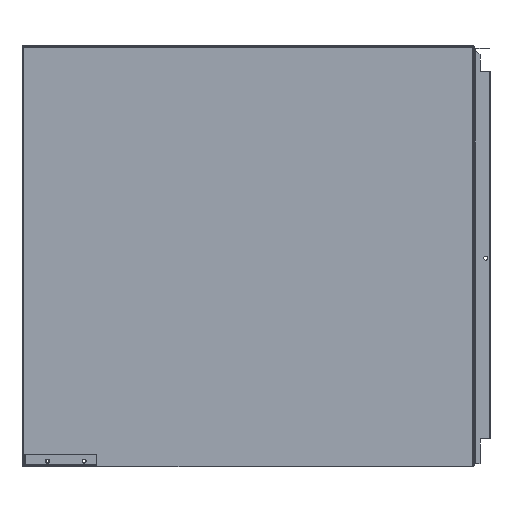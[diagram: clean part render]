
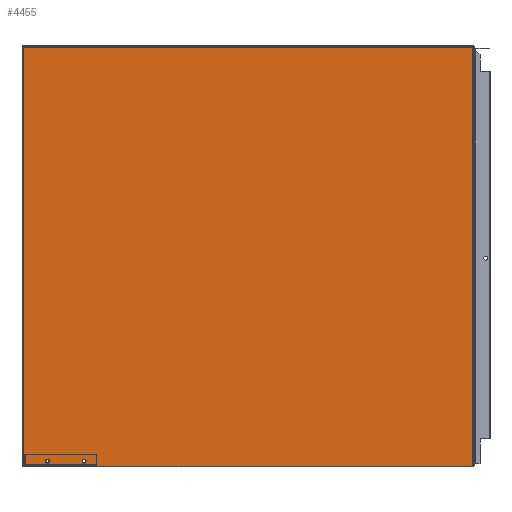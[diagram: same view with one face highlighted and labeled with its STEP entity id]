
A CAD part, left-side view. The second image highlights one B-rep face of the part: STEP entity #4455.
In plain terms, the highlighted planar face has unit normal (-1, 0, 0) as drawn and (0, 1, 0) by its records, which use the part's own axes.
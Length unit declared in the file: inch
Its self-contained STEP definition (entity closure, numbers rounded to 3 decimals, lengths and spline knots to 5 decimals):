
#46 = DIRECTION ( 'NONE',  ( -1., 0., 0. ) ) ;
#75 = LINE ( 'NONE', #1099, #2148 ) ;
#151 = CARTESIAN_POINT ( 'NONE',  ( -6.49853, 3.07772, 0.085 ) ) ;
#197 = VERTEX_POINT ( 'NONE', #4013 ) ;
#349 = VECTOR ( 'NONE', #3224, 39.37008 ) ;
#435 = CIRCLE ( 'NONE', #2537, 0.09375 ) ;
#460 = VERTEX_POINT ( 'NONE', #3942 ) ;
#487 = DIRECTION ( 'NONE',  ( -1., 0., 0. ) ) ;
#519 = DIRECTION ( 'NONE',  ( 0., 0., 1. ) ) ;
#568 = ORIENTED_EDGE ( 'NONE', *, *, #4282, .T. ) ;
#582 = DIRECTION ( 'NONE',  ( -1., 0., 0. ) ) ;
#586 = DIRECTION ( 'NONE',  ( 0., -1., 0. ) ) ;
#592 = CARTESIAN_POINT ( 'NONE',  ( -5.46205, 3.07772, 18.40628 ) ) ;
#618 = VECTOR ( 'NONE', #46, 39.37008 ) ;
#630 = DIRECTION ( 'NONE',  ( 0., -1., 0. ) ) ;
#667 = VERTEX_POINT ( 'NONE', #5003 ) ;
#752 = CARTESIAN_POINT ( 'NONE',  ( -5.46205, 3.07772, 18.40628 ) ) ;
#761 = EDGE_LOOP ( 'NONE', ( #1507, #2188 ) ) ;
#789 = CARTESIAN_POINT ( 'NONE',  ( -6.50208, 3.07772, 0.08555 ) ) ;
#874 = CARTESIAN_POINT ( 'NONE',  ( 13.74635, 3.07772, 0.08555 ) ) ;
#921 = DIRECTION ( 'NONE',  ( -1., 0., 0. ) ) ;
#1052 = LINE ( 'NONE', #1704, #1117 ) ;
#1099 = CARTESIAN_POINT ( 'NONE',  ( 13.33621, 3.07772, 17.4219 ) ) ;
#1117 = VECTOR ( 'NONE', #1807, 39.37008 ) ;
#1181 = ORIENTED_EDGE ( 'NONE', *, *, #4589, .T. ) ;
#1303 = CARTESIAN_POINT ( 'NONE',  ( -3.83705, 3.07772, 18.40628 ) ) ;
#1386 = DIRECTION ( 'NONE',  ( 0., 0., -1. ) ) ;
#1450 = ORIENTED_EDGE ( 'NONE', *, *, #4595, .T. ) ;
#1456 = LINE ( 'NONE', #3689, #1839 ) ;
#1489 = FACE_BOUND ( 'NONE', #1866, .T. ) ;
#1507 = ORIENTED_EDGE ( 'NONE', *, *, #3179, .T. ) ;
#1511 = FACE_BOUND ( 'NONE', #761, .T. ) ;
#1517 = FACE_OUTER_BOUND ( 'NONE', #4362, .T. ) ;
#1664 = CIRCLE ( 'NONE', #2512, 0.09375 ) ;
#1704 = CARTESIAN_POINT ( 'NONE',  ( 13.74635, 3.07772, 18.65628 ) ) ;
#1730 = ORIENTED_EDGE ( 'NONE', *, *, #3302, .T. ) ;
#1794 = CARTESIAN_POINT ( 'NONE',  ( -5.5558, 3.07772, 18.40628 ) ) ;
#1807 = DIRECTION ( 'NONE',  ( 1., 0., 0. ) ) ;
#1839 = VECTOR ( 'NONE', #3225, 39.37008 ) ;
#1866 = EDGE_LOOP ( 'NONE', ( #1450, #1918 ) ) ;
#1916 = CARTESIAN_POINT ( 'NONE',  ( -3.7433, 3.07772, 18.40628 ) ) ;
#1918 = ORIENTED_EDGE ( 'NONE', *, *, #3379, .T. ) ;
#2070 = DIRECTION ( 'NONE',  ( -1., 0., 0. ) ) ;
#2095 = VECTOR ( 'NONE', #3745, 39.37008 ) ;
#2102 = AXIS2_PLACEMENT_3D ( 'NONE', #3813, #3817, #3822 ) ;
#2129 = LINE ( 'NONE', #3742, #2095 ) ;
#2148 = VECTOR ( 'NONE', #1386, 39.37008 ) ;
#2159 = ORIENTED_EDGE ( 'NONE', *, *, #3755, .T. ) ;
#2169 = AXIS2_PLACEMENT_3D ( 'NONE', #4811, #4727, #4746 ) ;
#2185 = CIRCLE ( 'NONE', #2102, 0.09375 ) ;
#2188 = ORIENTED_EDGE ( 'NONE', *, *, #3309, .T. ) ;
#2301 = CARTESIAN_POINT ( 'NONE',  ( -6.50208, 3.07772, 18.65628 ) ) ;
#2498 = ORIENTED_EDGE ( 'NONE', *, *, #5016, .T. ) ;
#2512 = AXIS2_PLACEMENT_3D ( 'NONE', #1303, #4249, #487 ) ;
#2537 = AXIS2_PLACEMENT_3D ( 'NONE', #752, #630, #2070 ) ;
#2586 = VERTEX_POINT ( 'NONE', #3180 ) ;
#2609 = AXIS2_PLACEMENT_3D ( 'NONE', #592, #586, #582 ) ;
#2757 = CARTESIAN_POINT ( 'NONE',  ( 13.32742, 3.07772, 0.085 ) ) ;
#2933 = VECTOR ( 'NONE', #519, 39.37008 ) ;
#3009 = VERTEX_POINT ( 'NONE', #1916 ) ;
#3010 = LINE ( 'NONE', #4578, #618 ) ;
#3014 = ORIENTED_EDGE ( 'NONE', *, *, #3698, .T. ) ;
#3150 = VERTEX_POINT ( 'NONE', #789 ) ;
#3179 = EDGE_CURVE ( 'NONE', #4258, #667, #4931, .T. ) ;
#3180 = CARTESIAN_POINT ( 'NONE',  ( 13.33621, 3.07772, 0.08555 ) ) ;
#3224 = DIRECTION ( 'NONE',  ( 0., 0., -1. ) ) ;
#3225 = DIRECTION ( 'NONE',  ( 1., 0., 0. ) ) ;
#3240 = VERTEX_POINT ( 'NONE', #151 ) ;
#3302 = EDGE_CURVE ( 'NONE', #460, #3150, #3010, .T. ) ;
#3309 = EDGE_CURVE ( 'NONE', #667, #4258, #435, .T. ) ;
#3347 = CARTESIAN_POINT ( 'NONE',  ( 13.32742, 3.07772, 17.4219 ) ) ;
#3379 = EDGE_CURVE ( 'NONE', #3009, #197, #1664, .T. ) ;
#3501 = ORIENTED_EDGE ( 'NONE', *, *, #3692, .F. ) ;
#3562 = VERTEX_POINT ( 'NONE', #2757 ) ;
#3689 = CARTESIAN_POINT ( 'NONE',  ( 23.24068, 3.07772, 0.085 ) ) ;
#3692 = EDGE_CURVE ( 'NONE', #3240, #3562, #1456, .T. ) ;
#3698 = EDGE_CURVE ( 'NONE', #3915, #3562, #5044, .T. ) ;
#3724 = EDGE_CURVE ( 'NONE', #3240, #460, #4543, .T. ) ;
#3742 = CARTESIAN_POINT ( 'NONE',  ( -6.50208, 3.07772, 17.4219 ) ) ;
#3745 = DIRECTION ( 'NONE',  ( 0., 0., 1. ) ) ;
#3755 = EDGE_CURVE ( 'NONE', #5185, #2586, #75, .T. ) ;
#3813 = CARTESIAN_POINT ( 'NONE',  ( -3.83705, 3.07772, 18.40628 ) ) ;
#3817 = DIRECTION ( 'NONE',  ( 0., -1., 0. ) ) ;
#3822 = DIRECTION ( 'NONE',  ( -1., 0., 0. ) ) ;
#3901 = LINE ( 'NONE', #874, #3937 ) ;
#3915 = VERTEX_POINT ( 'NONE', #4467 ) ;
#3937 = VECTOR ( 'NONE', #921, 39.37008 ) ;
#3942 = CARTESIAN_POINT ( 'NONE',  ( -6.49853, 3.07772, 0.08555 ) ) ;
#4013 = CARTESIAN_POINT ( 'NONE',  ( -3.9308, 3.07772, 18.40628 ) ) ;
#4249 = DIRECTION ( 'NONE',  ( 0., -1., 0. ) ) ;
#4258 = VERTEX_POINT ( 'NONE', #1794 ) ;
#4282 = EDGE_CURVE ( 'NONE', #4421, #5185, #1052, .T. ) ;
#4362 = EDGE_LOOP ( 'NONE', ( #2159, #2498, #3014, #3501, #4895, #1730, #1181, #568 ) ) ;
#4421 = VERTEX_POINT ( 'NONE', #2301 ) ;
#4455 = ADVANCED_FACE ( 'NONE', ( #1517, #1511, #1489 ), #4936, .T. ) ;
#4467 = CARTESIAN_POINT ( 'NONE',  ( 13.32742, 3.07772, 0.08555 ) ) ;
#4530 = CARTESIAN_POINT ( 'NONE',  ( -6.49853, 3.07772, 0.08555 ) ) ;
#4543 = LINE ( 'NONE', #4530, #2933 ) ;
#4544 = CARTESIAN_POINT ( 'NONE',  ( 13.33621, 3.07772, 18.65628 ) ) ;
#4578 = CARTESIAN_POINT ( 'NONE',  ( 13.74635, 3.07772, 0.08555 ) ) ;
#4589 = EDGE_CURVE ( 'NONE', #3150, #4421, #2129, .T. ) ;
#4595 = EDGE_CURVE ( 'NONE', #197, #3009, #2185, .T. ) ;
#4727 = DIRECTION ( 'NONE',  ( 0., 1., 0. ) ) ;
#4746 = DIRECTION ( 'NONE',  ( -1., 0., 0. ) ) ;
#4811 = CARTESIAN_POINT ( 'NONE',  ( 13.74635, 3.07772, 17.4219 ) ) ;
#4895 = ORIENTED_EDGE ( 'NONE', *, *, #3724, .T. ) ;
#4931 = CIRCLE ( 'NONE', #2609, 0.09375 ) ;
#4936 = PLANE ( 'NONE',  #2169 ) ;
#5003 = CARTESIAN_POINT ( 'NONE',  ( -5.3683, 3.07772, 18.40628 ) ) ;
#5016 = EDGE_CURVE ( 'NONE', #2586, #3915, #3901, .T. ) ;
#5044 = LINE ( 'NONE', #3347, #349 ) ;
#5185 = VERTEX_POINT ( 'NONE', #4544 ) ;
